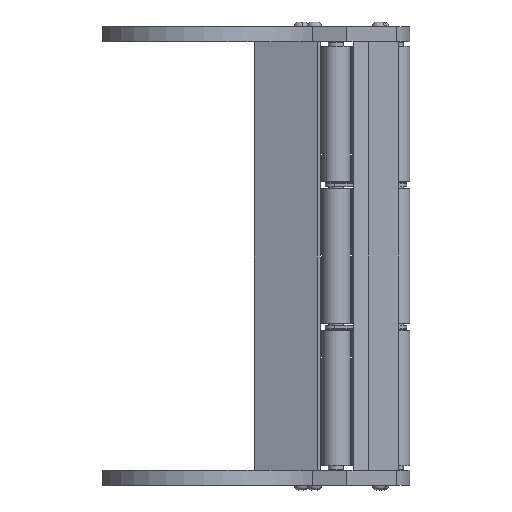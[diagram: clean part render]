
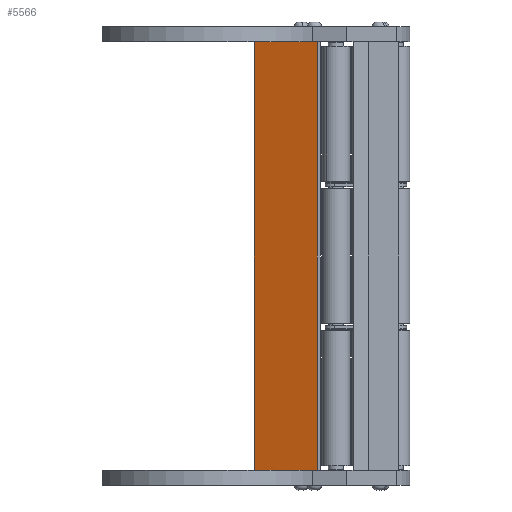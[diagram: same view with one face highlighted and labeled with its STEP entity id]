
A CAD part, front view. The second image highlights one B-rep face of the part: STEP entity #5566.
In plain terms, the highlighted planar face has unit normal (-0.342, -0.94, 0) as drawn and (0.342, -0.94, 0) by its records, which use the part's own axes.
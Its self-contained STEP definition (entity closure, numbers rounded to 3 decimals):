
#125 = CARTESIAN_POINT ( 'NONE',  ( 1.655, 0., 227. ) ) ;
#337 = LINE ( 'NONE', #9904, #11207 ) ;
#637 = CARTESIAN_POINT ( 'NONE',  ( 1.655, 0., 0. ) ) ;
#786 = PLANE ( 'NONE',  #8498 ) ;
#2364 = EDGE_CURVE ( 'NONE', #12198, #11485, #5771, .T. ) ;
#3079 = DIRECTION ( 'NONE',  ( 0.94, 0.342, 0. ) ) ;
#3465 = ORIENTED_EDGE ( 'NONE', *, *, #3537, .T. ) ;
#3537 = EDGE_CURVE ( 'NONE', #16813, #11485, #337, .T. ) ;
#3821 = EDGE_LOOP ( 'NONE', ( #3465, #12623, #4137, #5832 ) ) ;
#4137 = ORIENTED_EDGE ( 'NONE', *, *, #10733, .F. ) ;
#4196 = VECTOR ( 'NONE', #6043, 1000. ) ;
#4301 = DIRECTION ( 'NONE',  ( 0.94, 0.342, 0. ) ) ;
#4683 = CARTESIAN_POINT ( 'NONE',  ( 35., 12.137, 227. ) ) ;
#4852 = CARTESIAN_POINT ( 'NONE',  ( 1.655, 0., 227. ) ) ;
#4948 = CARTESIAN_POINT ( 'NONE',  ( 35., 12.137, 227. ) ) ;
#5037 = DIRECTION ( 'NONE',  ( -0.342, 0.94, 0. ) ) ;
#5566 = ADVANCED_FACE ( 'NONE', ( #11751 ), #786, .F. ) ;
#5771 = LINE ( 'NONE', #4683, #4196 ) ;
#5832 = ORIENTED_EDGE ( 'NONE', *, *, #17172, .T. ) ;
#5996 = VECTOR ( 'NONE', #11489, 1000. ) ;
#6043 = DIRECTION ( 'NONE',  ( 0., 0., -1. ) ) ;
#6139 = LINE ( 'NONE', #17037, #8072 ) ;
#8072 = VECTOR ( 'NONE', #3079, 1000. ) ;
#8498 = AXIS2_PLACEMENT_3D ( 'NONE', #4948, #5037, #10488 ) ;
#9423 = CARTESIAN_POINT ( 'NONE',  ( 35., 12.137, 227. ) ) ;
#9904 = CARTESIAN_POINT ( 'NONE',  ( 35., 12.137, 0. ) ) ;
#10488 = DIRECTION ( 'NONE',  ( -0.94, -0.342, 0. ) ) ;
#10733 = EDGE_CURVE ( 'NONE', #16601, #12198, #6139, .T. ) ;
#11207 = VECTOR ( 'NONE', #4301, 1000. ) ;
#11485 = VERTEX_POINT ( 'NONE', #14725 ) ;
#11489 = DIRECTION ( 'NONE',  ( 0., 0., -1. ) ) ;
#11751 = FACE_OUTER_BOUND ( 'NONE', #3821, .T. ) ;
#12198 = VERTEX_POINT ( 'NONE', #9423 ) ;
#12623 = ORIENTED_EDGE ( 'NONE', *, *, #2364, .F. ) ;
#13026 = LINE ( 'NONE', #4852, #5996 ) ;
#14725 = CARTESIAN_POINT ( 'NONE',  ( 35., 12.137, 0. ) ) ;
#16601 = VERTEX_POINT ( 'NONE', #125 ) ;
#16813 = VERTEX_POINT ( 'NONE', #637 ) ;
#17037 = CARTESIAN_POINT ( 'NONE',  ( 1.655, 0., 227. ) ) ;
#17172 = EDGE_CURVE ( 'NONE', #16601, #16813, #13026, .T. ) ;
